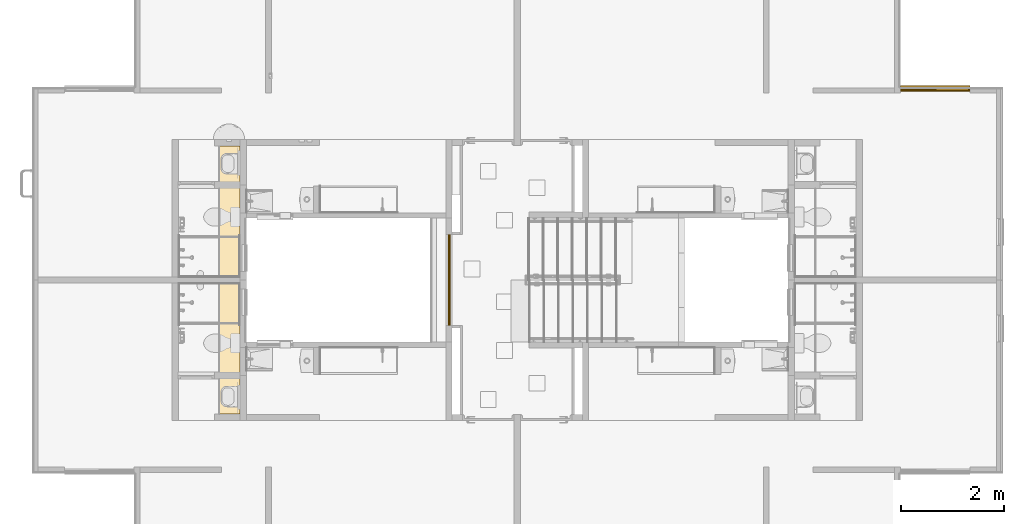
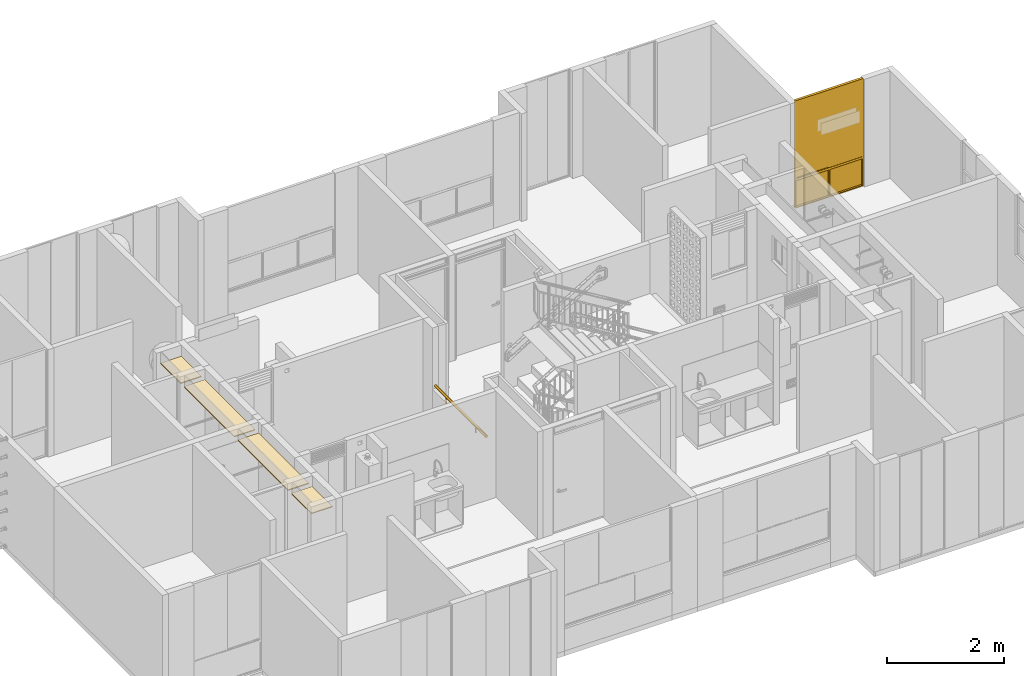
# One storey, part 38 of 51: 2 coverings, 1 railing, 1 window.
"""IFC4 building model written with IfcOpenShell, lengths in metres."""

from ifc_helpers import new_model, entity, si_unit, converted_unit, derived_unit, direction, frame, origin, place, context, subcontext, project, spatial, arc, indexed_curve, outline, extrude, polygons, source, transform, mapped, material, constituent, constituent_set, type_object, type_shapes, element, save


model = new_model("IFC4")

# Units and contexts
model_context = context("Model", 3, precision=1e-05, world=origin(), true_north=direction((6.123031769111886e-17, 1.0)))
body_context = subcontext(model_context, "Body", "Model", "MODEL_VIEW")
ifc_project = project(units=[si_unit("LENGTHUNIT", "METRE"), si_unit("AREAUNIT", "SQUARE_METRE"), si_unit("VOLUMEUNIT", "CUBIC_METRE"), converted_unit("PLANEANGLEUNIT", "DEGREE", entity("IfcRatioMeasure", 0.017453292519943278), si_unit("PLANEANGLEUNIT", "RADIAN"), dimensions=[0, 0, 0, 0, 0, 0, 0]), si_unit("MASSUNIT", "GRAM", prefix="KILO"), derived_unit("MASSDENSITYUNIT", [(si_unit("MASSUNIT", "GRAM", prefix="KILO"), 1), (si_unit("LENGTHUNIT", "METRE"), -3)]), derived_unit("IONCONCENTRATIONUNIT", [(si_unit("MASSUNIT", "GRAM", prefix="KILO"), 1), (si_unit("LENGTHUNIT", "METRE"), -3)]), derived_unit("MOMENTOFINERTIAUNIT", [(si_unit("LENGTHUNIT", "METRE"), 4)]), si_unit("TIMEUNIT", "SECOND"), si_unit("FREQUENCYUNIT", "HERTZ"), si_unit("THERMODYNAMICTEMPERATUREUNIT", "DEGREE_CELSIUS"), derived_unit("THERMALTRANSMITTANCEUNIT", [(si_unit("MASSUNIT", "GRAM", prefix="KILO"), 1), (si_unit("THERMODYNAMICTEMPERATUREUNIT", "KELVIN"), -1), (si_unit("TIMEUNIT", "SECOND"), -3)]), derived_unit("THERMALCONDUCTANCEUNIT", [(si_unit("MASSUNIT", "GRAM", prefix="KILO"), 1), (si_unit("THERMODYNAMICTEMPERATUREUNIT", "KELVIN"), -1), (si_unit("TIMEUNIT", "SECOND"), -3), (si_unit("LENGTHUNIT", "METRE"), 1)]), derived_unit("VOLUMETRICFLOWRATEUNIT", [(si_unit("LENGTHUNIT", "METRE"), 3), (si_unit("TIMEUNIT", "SECOND"), -1)]), derived_unit("MASSFLOWRATEUNIT", [(si_unit("MASSUNIT", "GRAM", prefix="KILO"), 1), (si_unit("TIMEUNIT", "SECOND"), -1)]), derived_unit("ROTATIONALFREQUENCYUNIT", [(si_unit("TIMEUNIT", "SECOND"), -1)]), si_unit("ELECTRICCURRENTUNIT", "AMPERE"), si_unit("ELECTRICVOLTAGEUNIT", "VOLT"), si_unit("POWERUNIT", "WATT"), si_unit("FORCEUNIT", "NEWTON", prefix="KILO"), si_unit("ILLUMINANCEUNIT", "LUX"), si_unit("LUMINOUSFLUXUNIT", "LUMEN"), si_unit("LUMINOUSINTENSITYUNIT", "CANDELA"), derived_unit("USERDEFINED", [(si_unit("MASSUNIT", "GRAM", prefix="KILO"), -1), (si_unit("LENGTHUNIT", "METRE"), -2), (si_unit("TIMEUNIT", "SECOND"), 3), (si_unit("LUMINOUSFLUXUNIT", "LUMEN"), 1)]), derived_unit("USERDEFINED", [(si_unit("MASSUNIT", "GRAM", prefix="KILO"), 1), (si_unit("TIMEUNIT", "SECOND"), -3), (si_unit("LENGTHUNIT", "METRE"), 3), (si_unit("ELECTRICCURRENTUNIT", "AMPERE"), -2)]), derived_unit("SOUNDPOWERUNIT", [(si_unit("MASSUNIT", "GRAM", prefix="KILO"), 1), (si_unit("TIMEUNIT", "SECOND"), -3), (si_unit("LENGTHUNIT", "METRE"), 2)]), derived_unit("SOUNDPRESSUREUNIT", [(si_unit("MASSUNIT", "GRAM", prefix="KILO"), 1), (si_unit("LENGTHUNIT", "METRE"), -1), (si_unit("TIMEUNIT", "SECOND"), -2)]), derived_unit("LINEARVELOCITYUNIT", [(si_unit("LENGTHUNIT", "METRE"), 1), (si_unit("TIMEUNIT", "SECOND"), -1)]), si_unit("PRESSUREUNIT", "PASCAL"), derived_unit("USERDEFINED", [(si_unit("MASSUNIT", "GRAM", prefix="KILO"), 1), (si_unit("LENGTHUNIT", "METRE"), -2), (si_unit("TIMEUNIT", "SECOND"), -2)]), derived_unit("LINEARFORCEUNIT", [(si_unit("MASSUNIT", "GRAM", prefix="KILO"), 1), (si_unit("TIMEUNIT", "SECOND"), -2)]), derived_unit("PLANARFORCEUNIT", [(si_unit("MASSUNIT", "GRAM", prefix="KILO"), 1), (si_unit("LENGTHUNIT", "METRE"), -1), (si_unit("TIMEUNIT", "SECOND"), -2)]), derived_unit("SPECIFICHEATCAPACITYUNIT", [(si_unit("THERMODYNAMICTEMPERATUREUNIT", "KELVIN"), -1), (si_unit("LENGTHUNIT", "METRE"), 2), (si_unit("TIMEUNIT", "SECOND"), -2)]), derived_unit("HEATINGVALUEUNIT", [(si_unit("LENGTHUNIT", "METRE"), 2), (si_unit("TIMEUNIT", "SECOND"), -2)]), derived_unit("VAPORPERMEABILITYUNIT", [(si_unit("LENGTHUNIT", "METRE"), -1), (si_unit("TIMEUNIT", "SECOND"), 1)]), derived_unit("DYNAMICVISCOSITYUNIT", [(si_unit("MASSUNIT", "GRAM", prefix="KILO"), 1), (si_unit("TIMEUNIT", "SECOND"), -1), (si_unit("LENGTHUNIT", "METRE"), -1)]), derived_unit("THERMALEXPANSIONCOEFFICIENTUNIT", [(si_unit("THERMODYNAMICTEMPERATUREUNIT", "KELVIN"), -1)]), derived_unit("MODULUSOFELASTICITYUNIT", [(si_unit("MASSUNIT", "GRAM", prefix="KILO"), 1), (si_unit("LENGTHUNIT", "METRE"), -1), (si_unit("TIMEUNIT", "SECOND"), -2)]), derived_unit("ISOTHERMALMOISTURECAPACITYUNIT", [(si_unit("LENGTHUNIT", "METRE"), 3), (si_unit("MASSUNIT", "GRAM", prefix="KILO"), -1)]), derived_unit("MOISTUREDIFFUSIVITYUNIT", [(si_unit("TIMEUNIT", "SECOND"), -1), (si_unit("LENGTHUNIT", "METRE"), 2)])], contexts=[model_context])

# Site, building, storey
site_placement = place(None, origin())
site = spatial("IfcSite", under=ifc_project, at=site_placement, Name="Default", CompositionType="ELEMENT")
building_placement = place(site_placement, origin())
building = spatial("IfcBuilding", under=site, at=building_placement, CompositionType="ELEMENT")
storey_placement = place(building_placement, frame((0.0, 0.0, 2.350000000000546)))
storey = spatial("IfcBuildingStorey", under=building, at=storey_placement, Name="Nivel 2", CompositionType="ELEMENT", Elevation=2.350000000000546)

# Window
ifc_material_1 = material(Name="Vidrio", Category="Materials")
ifc_constituent_1 = constituent(ifc_material_1, Name="Vidrio", Category="Materials")
ifc_material_2 = material(Name="Aluminio", Category="Materials")
ifc_constituent_2 = constituent(ifc_material_2, Name="Aluminio", Category="Materials")
ifc_material_3 = material(Name="<Unnamed>")
ifc_constituent_3 = constituent(ifc_material_3, Name="<Unnamed>")
ifc_constituent_set_1 = constituent_set(constituents=[ifc_constituent_1, ifc_constituent_2, ifc_constituent_3])
ifc_constituent_4 = constituent(ifc_material_1, Name="Vidrio", Category="Materials")
ifc_constituent_5 = constituent(ifc_material_2, Name="Aluminio", Category="Materials")
ifc_constituent_6 = constituent(ifc_material_3, Name="<Unnamed>")
ifc_constituent_set_2 = constituent_set(constituents=[ifc_constituent_4, ifc_constituent_5, ifc_constituent_6])
window_type = type_object("IfcWindowType", Name="B2020 - Ventana corrediza - Aluminio + Vidrio:B2020 - 1.35m x 2.25m - Ventana corrediza 2C - Aluminio + Vidrio", PartitioningType="NOTDEFINED", PredefinedType="WINDOW", material=ifc_constituent_set_2)
shared_shape = source(origin(), body_context, "Body", "Tessellation", [
    polygons([(1.3299999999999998, 0.044249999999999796, 2.2300000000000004), (0.6749999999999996, 0.04424999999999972, 2.2300000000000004), (0.6749999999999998, 0.04424999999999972, 0.6174999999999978), (1.3299999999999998, 0.044249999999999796, 0.6174999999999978), (1.3299999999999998, 0.04824999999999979, 2.2300000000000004), (0.6749999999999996, 0.04824999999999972, 2.2300000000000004), (0.6749999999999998, 0.04824999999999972, 0.6174999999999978), (1.3299999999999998, 0.04824999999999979, 0.6174999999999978)], [[[1, 2, 3, 4]], [[2, 1, 5, 6]], [[3, 2, 6, 7]], [[1, 4, 8, 5]], [[5, 8, 7, 6]], [[4, 3, 7, 8]]], closed=True),
    polygons([(0.020000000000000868, 0.04424999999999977, 2.2300000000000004), (0.020000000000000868, 0.04424999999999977, 0.6174999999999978), (0.6800000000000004, 0.044249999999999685, 0.6174999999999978), (0.6800000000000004, 0.044249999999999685, 2.2300000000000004), (0.020000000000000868, 0.048249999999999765, 2.2300000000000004), (0.020000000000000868, 0.048249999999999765, 0.6174999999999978), (0.6800000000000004, 0.04824999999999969, 0.6174999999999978), (0.6800000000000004, 0.04824999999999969, 2.2300000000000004)], [[[1, 2, 3, 4]], [[2, 1, 5, 6]], [[4, 3, 7, 8]], [[1, 4, 8, 5]], [[5, 8, 7, 6]], [[3, 2, 6, 7]]], closed=True),
    polygons([(0.6800000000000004, 0.048249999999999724, 0.6174999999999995), (0.6800000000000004, 0.044249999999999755, 0.6174999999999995), (0.6800000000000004, 0.044249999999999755, 2.230000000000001), (0.6800000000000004, 0.048249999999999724, 2.230000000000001), (0.665, 0.044249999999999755, 2.2150000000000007), (0.035000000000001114, 0.04424999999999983, 2.2150000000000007), (0.035000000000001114, 0.04424999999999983, 0.6324999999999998), (0.665, 0.044249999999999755, 0.6324999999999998), (0.020000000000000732, 0.04424999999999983, 0.6174999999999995), (0.020000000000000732, 0.04424999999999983, 2.230000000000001), (0.020000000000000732, 0.0482499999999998, 2.230000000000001), (0.020000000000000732, 0.0482499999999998, 0.6174999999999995), (0.665, 0.048249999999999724, 0.6324999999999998), (0.035000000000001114, 0.04824999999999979, 0.6324999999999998), (0.035000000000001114, 0.04824999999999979, 2.2150000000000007), (0.665, 0.048249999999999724, 2.2150000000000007), (0.665, 0.05299999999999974, 0.6324999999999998), (0.665, 0.05299999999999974, 2.2150000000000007), (0.035000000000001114, 0.05299999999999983, 2.2150000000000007), (0.035000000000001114, 0.05299999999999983, 0.6324999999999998), (0.6850000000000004, 0.05299999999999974, 0.6124999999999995), (0.015000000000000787, 0.05299999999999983, 0.6124999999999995), (0.015000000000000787, 0.05299999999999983, 2.2350000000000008), (0.6850000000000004, 0.05299999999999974, 2.2350000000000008), (0.6850000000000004, 0.03949999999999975, 0.6124999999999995), (0.6850000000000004, 0.03949999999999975, 2.2350000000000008), (0.015000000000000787, 0.03949999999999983, 2.2350000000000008), (0.015000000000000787, 0.03949999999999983, 0.6124999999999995), (0.665, 0.03949999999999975, 0.6324999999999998), (0.035000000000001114, 0.03949999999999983, 0.6324999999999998), (0.035000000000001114, 0.03949999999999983, 2.2150000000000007), (0.665, 0.03949999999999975, 2.2150000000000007)], [[[1, 2, 3, 4]], [[2, 9, 10, 3], [5, 6, 7, 8]], [[4, 3, 10, 11]], [[4, 11, 12, 1], [13, 14, 15, 16]], [[17, 13, 16, 18]], [[18, 16, 15, 19]], [[21, 22, 23, 24], [18, 19, 20, 17]], [[25, 21, 24, 26]], [[26, 24, 23, 27]], [[26, 27, 28, 25], [29, 30, 31, 32]], [[8, 29, 32, 5]], [[5, 32, 31, 6]], [[11, 10, 9, 12]], [[19, 15, 14, 20]], [[27, 23, 22, 28]], [[6, 31, 30, 7]], [[12, 9, 2, 1]], [[20, 14, 13, 17]], [[28, 22, 21, 25]], [[7, 30, 29, 8]]], closed=True),
    polygons([(0.6699999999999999, 0.06674999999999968, 2.229999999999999), (0.6699999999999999, 0.06674999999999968, 0.6174999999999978), (1.3299999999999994, 0.06674999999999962, 0.6174999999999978), (1.3299999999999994, 0.06674999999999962, 2.229999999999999), (0.6699999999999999, 0.07074999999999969, 2.229999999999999), (0.6699999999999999, 0.07074999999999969, 0.6174999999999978), (1.3299999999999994, 0.0707499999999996, 0.6174999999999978), (1.3299999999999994, 0.0707499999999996, 2.229999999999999)], [[[1, 2, 3, 4]], [[2, 1, 5, 6]], [[4, 3, 7, 8]], [[1, 4, 8, 5]], [[5, 8, 7, 6]], [[3, 2, 6, 7]]], closed=True),
    polygons([(1.3299999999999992, 0.07074999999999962, 0.6175), (1.3299999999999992, 0.06674999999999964, 0.6175), (1.3299999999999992, 0.06674999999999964, 2.2299999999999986), (1.3299999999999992, 0.07074999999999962, 2.2299999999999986), (1.3149999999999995, 0.06674999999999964, 2.214999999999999), (0.6850000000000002, 0.06674999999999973, 2.214999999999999), (0.6850000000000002, 0.06674999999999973, 0.6324999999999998), (1.3149999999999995, 0.06674999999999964, 0.6324999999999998), (0.6700000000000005, 0.06674999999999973, 0.6175), (0.6700000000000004, 0.06674999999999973, 2.2299999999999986), (0.6700000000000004, 0.0707499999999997, 2.2299999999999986), (0.6700000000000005, 0.0707499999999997, 0.6175), (1.3149999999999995, 0.07074999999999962, 0.6324999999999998), (0.6850000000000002, 0.0707499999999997, 0.6324999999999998), (0.6850000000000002, 0.0707499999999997, 2.214999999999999), (1.3149999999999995, 0.07074999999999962, 2.214999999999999), (1.3149999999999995, 0.07549999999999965, 0.6324999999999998), (1.3149999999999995, 0.07549999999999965, 2.214999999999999), (0.6850000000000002, 0.07549999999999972, 2.214999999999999), (0.6850000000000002, 0.07549999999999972, 0.6324999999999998), (1.3349999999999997, 0.07549999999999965, 0.6124999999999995), (0.665, 0.07549999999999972, 0.6124999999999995), (0.6649999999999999, 0.07549999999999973, 2.2349999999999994), (1.3349999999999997, 0.07549999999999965, 2.2349999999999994), (1.3349999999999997, 0.06199999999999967, 0.6124999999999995), (1.3349999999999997, 0.06199999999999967, 2.2349999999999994), (0.6649999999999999, 0.06199999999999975, 2.2349999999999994), (0.665, 0.06199999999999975, 0.6124999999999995), (1.3149999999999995, 0.06199999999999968, 0.6324999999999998), (0.6850000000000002, 0.06199999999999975, 0.6324999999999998), (0.6850000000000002, 0.06199999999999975, 2.214999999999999), (1.3149999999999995, 0.06199999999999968, 2.214999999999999)], [[[1, 2, 3, 4]], [[2, 9, 10, 3], [5, 6, 7, 8]], [[4, 3, 10, 11]], [[4, 11, 12, 1], [13, 14, 15, 16]], [[17, 13, 16, 18]], [[18, 16, 15, 19]], [[21, 22, 23, 24], [18, 19, 20, 17]], [[25, 21, 24, 26]], [[26, 24, 23, 27]], [[26, 27, 28, 25], [29, 30, 31, 32]], [[8, 29, 32, 5]], [[5, 32, 31, 6]], [[11, 10, 9, 12]], [[19, 15, 14, 20]], [[27, 23, 22, 28]], [[6, 31, 30, 7]], [[12, 9, 2, 1]], [[20, 14, 13, 17]], [[28, 22, 21, 25]], [[7, 30, 29, 8]]], closed=True),
    polygons([(1.3249999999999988, 0.037499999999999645, 2.224999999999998), (1.3249999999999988, 0.03249999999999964, 2.2249999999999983), (0.025000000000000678, 0.03249999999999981, 2.2249999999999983), (0.025000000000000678, 0.037499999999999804, 2.2249999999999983), (0.025000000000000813, 0.03249999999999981, 0.6200000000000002), (0.02500000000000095, 0.037499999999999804, 0.6200000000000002), (1.3249999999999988, 0.03249999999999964, 0.6200000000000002), (6.767919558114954e-16, 0.03249999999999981, 0.595), (1.349999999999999, 0.03249999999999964, 0.595), (1.349999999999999, 0.03249999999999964, 2.2499999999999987), (4.060751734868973e-16, 0.03249999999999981, 2.2499999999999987), (0.005000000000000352, 0.037499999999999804, 2.2449999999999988), (1.344999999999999, 0.037499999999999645, 2.2449999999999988), (1.344999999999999, 0.037499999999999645, 0.5999999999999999), (0.0050000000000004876, 0.037499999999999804, 0.5999999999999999), (1.3249999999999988, 0.037499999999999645, 0.6200000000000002), (1.344999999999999, 0.054999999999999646, 2.2449999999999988), (0.005000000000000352, 0.05499999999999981, 2.2449999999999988), (0.005000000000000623, 0.05499999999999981, 0.5999999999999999), (0.025000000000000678, 0.054999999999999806, 2.2249999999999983), (1.3249999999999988, 0.05499999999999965, 2.224999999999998), (1.3249999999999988, 0.05499999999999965, 0.6200000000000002), (0.025000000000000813, 0.054999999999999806, 0.6200000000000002), (1.344999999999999, 0.054999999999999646, 0.5999999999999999), (1.3249999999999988, 0.05999999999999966, 2.224999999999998), (0.025000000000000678, 0.05999999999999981, 2.2249999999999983), (0.02500000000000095, 0.05999999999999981, 0.6200000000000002), (0.005000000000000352, 0.05999999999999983, 2.2449999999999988), (1.344999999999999, 0.05999999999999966, 2.2449999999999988), (1.344999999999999, 0.05999999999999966, 0.5999999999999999), (0.0050000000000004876, 0.05999999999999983, 0.5999999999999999), (1.3249999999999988, 0.05999999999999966, 0.6200000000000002), (1.344999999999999, 0.07749999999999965, 2.2449999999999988), (0.005000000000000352, 0.07749999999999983, 2.2449999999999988), (0.005000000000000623, 0.07749999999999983, 0.5999999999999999), (0.025000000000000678, 0.07749999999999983, 2.2249999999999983), (1.3249999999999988, 0.07749999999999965, 2.224999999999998), (1.3249999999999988, 0.07749999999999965, 0.6200000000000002), (0.025000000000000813, 0.07749999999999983, 0.6200000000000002), (1.344999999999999, 0.07749999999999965, 0.5999999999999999), (1.3249999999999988, 0.08249999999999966, 2.224999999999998), (0.025000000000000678, 0.08249999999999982, 2.2249999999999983), (0.02500000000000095, 0.08249999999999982, 0.6200000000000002), (4.060751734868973e-16, 0.08249999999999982, 2.2499999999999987), (1.349999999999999, 0.08249999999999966, 2.2499999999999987), (1.349999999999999, 0.08249999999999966, 0.595), (5.414335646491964e-16, 0.08249999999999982, 0.595), (1.3249999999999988, 0.08249999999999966, 0.6200000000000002)], [[[1, 2, 3, 4]], [[4, 3, 5, 6]], [[8, 9, 10, 11], [3, 2, 7, 5]], [[12, 13, 14, 15], [6, 16, 1, 4]], [[17, 13, 12, 18]], [[18, 12, 15, 19]], [[19, 24, 17, 18], [20, 21, 22, 23]], [[25, 21, 20, 26]], [[26, 20, 23, 27]], [[28, 29, 30, 31], [27, 32, 25, 26]], [[33, 29, 28, 34]], [[34, 28, 31, 35]], [[35, 40, 33, 34], [36, 37, 38, 39]], [[41, 37, 36, 42]], [[42, 36, 39, 43]], [[44, 45, 46, 47], [43, 48, 41, 42]], [[10, 45, 44, 11]], [[11, 44, 47, 8]], [[16, 7, 2, 1]], [[24, 14, 13, 17]], [[32, 22, 21, 25]], [[40, 30, 29, 33]], [[48, 38, 37, 41]], [[9, 46, 45, 10]], [[6, 5, 7, 16]], [[19, 15, 14, 24]], [[27, 23, 22, 32]], [[35, 31, 30, 40]], [[43, 39, 38, 48]], [[8, 47, 46, 9]]], closed=True),
    polygons([(0.01999999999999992, 0.08250000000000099, 0.5749999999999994), (0.020000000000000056, 0.03249999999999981, 0.5749999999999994), (0.020000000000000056, 0.0324999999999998, 0.020000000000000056), (0.01999999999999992, 0.08250000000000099, 0.020000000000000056), (0.6649999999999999, 0.03250000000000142, 0.01999999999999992), (0.6649999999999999, 0.08250000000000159, 0.019999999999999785), (2.707167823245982e-16, 0.03250000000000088, 0.5949999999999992), (2.707167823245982e-16, 0.08249999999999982, 0.5949999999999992), (2.707167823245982e-16, 0.08249999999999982, 2.707167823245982e-16), (2.707167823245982e-16, 0.03250000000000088, 2.707167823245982e-16), (1.3499999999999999, 0.08249999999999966, 2.707167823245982e-16), (1.3499999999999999, 0.03250000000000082, 2.707167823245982e-16), (1.3299999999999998, 0.08250000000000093, 0.020000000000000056), (1.33, 0.03249999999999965, 0.020000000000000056), (1.33, 0.03249999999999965, 0.5749999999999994), (1.3299999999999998, 0.08250000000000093, 0.5749999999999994), (1.3499999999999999, 0.08249999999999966, 0.5949999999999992), (1.3499999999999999, 0.03250000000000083, 0.5949999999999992), (0.6849999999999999, 0.03250000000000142, 0.5749999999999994), (0.6849999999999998, 0.08250000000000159, 0.5749999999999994), (0.6849999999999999, 0.08250000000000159, 0.019999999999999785), (0.6849999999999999, 0.03250000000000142, 0.01999999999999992), (0.6649999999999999, 0.03250000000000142, 0.5749999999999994), (0.6649999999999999, 0.08250000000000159, 0.5749999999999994)], [[[1, 2, 3, 4]], [[4, 3, 5, 6]], [[7, 8, 9, 10]], [[10, 9, 11, 12]], [[13, 14, 15, 16]], [[12, 11, 17, 18]], [[16, 15, 19, 20]], [[8, 7, 18, 17]], [[21, 20, 19, 22]], [[7, 10, 12, 18], [22, 19, 15, 14], [23, 5, 3, 2]], [[24, 6, 5, 23]], [[9, 8, 17, 11], [6, 24, 1, 4], [20, 21, 13, 16]], [[2, 1, 24, 23]], [[14, 13, 21, 22]]], closed=True),
    polygons([(0.6850000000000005, 0.07213901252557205, 0.019999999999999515), (1.3300000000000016, 0.07213901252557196, 0.019999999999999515), (1.3300000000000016, 0.06813901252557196, 0.019999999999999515), (0.6850000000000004, 0.06813901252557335, 0.019999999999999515), (0.6850000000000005, 0.07213901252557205, 0.5849999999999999), (1.3300000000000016, 0.07213901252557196, 0.5849999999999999), (1.3300000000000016, 0.06813901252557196, 0.5849999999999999), (0.6850000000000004, 0.06813901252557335, 0.5849999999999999)], [[[1, 2, 3, 4]], [[5, 6, 2, 1]], [[6, 7, 3, 2]], [[7, 8, 4, 3]], [[8, 5, 1, 4]], [[5, 8, 7, 6]]], closed=True),
    polygons([(0.6649999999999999, 0.07213901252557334, 0.019999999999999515), (0.6649999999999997, 0.06813901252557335, 0.019999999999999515), (0.01999999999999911, 0.06813901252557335, 0.019999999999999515), (0.019999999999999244, 0.07213901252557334, 0.019999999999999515), (0.6649999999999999, 0.07213901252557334, 0.5849999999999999), (0.6649999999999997, 0.06813901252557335, 0.5849999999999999), (0.01999999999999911, 0.06813901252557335, 0.5849999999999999), (0.019999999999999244, 0.07213901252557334, 0.5849999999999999)], [[[1, 2, 3, 4]], [[5, 6, 2, 1]], [[6, 7, 3, 2]], [[7, 8, 4, 3]], [[8, 5, 1, 4]], [[5, 8, 7, 6]]], closed=True),
    polygons([(-9.475087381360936e-16, 0.11499999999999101, -4.060751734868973e-16), (-9.475087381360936e-16, 0.08249999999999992, -4.060751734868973e-16), (-9.475087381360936e-16, 0.08249999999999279, 0.0049999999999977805), (-9.475087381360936e-16, 0.11633974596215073, 0.0049999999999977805), (-8.121503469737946e-16, 0.14348076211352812, -0.010669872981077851), (-8.121503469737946e-16, 0.14098076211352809, -0.015000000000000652), (1.3499999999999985, 0.11499999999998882, -4.060751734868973e-16), (1.3499999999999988, 0.1409807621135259, -0.015000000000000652), (1.3499999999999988, 0.14348076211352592, -0.010669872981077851), (1.3499999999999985, 0.11633974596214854, 0.0049999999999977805), (1.3499999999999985, 0.08249999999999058, 0.0049999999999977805), (1.3499999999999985, 0.08249999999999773, -4.060751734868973e-16)], [[[1, 2, 3, 4, 5, 6]], [[7, 8, 9, 10, 11, 12]], [[2, 1, 7, 12]], [[3, 2, 12, 11]], [[4, 3, 11, 10]], [[5, 4, 10, 9]], [[6, 5, 9, 8]], [[1, 6, 8, 7]]], closed=True),
])
type_shapes(window_type, [shared_shape])
window_placement = place(storey_placement, frame((16.7275000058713, -2.8100000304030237, 0.0)))
element("IfcWindow", 1, at=window_placement, inside=storey, type_object=window_type, material=ifc_constituent_set_1, Name="B2020 - Ventana corrediza - Aluminio + Vidrio:B2020 - 1.35m x 2.25m - Ventana corrediza 2C - Aluminio + Vidrio", ObjectType="B2020 - Ventana corrediza - Aluminio + Vidrio:B2020 - 1.35m x 2.25m - Ventana corrediza 2C - Aluminio + Vidrio", OverallHeight=2.265, OverallWidth=1.3500000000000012, PartitioningType="NOTDEFINED", PredefinedType="WINDOW", context=body_context, shape_type="MappedRepresentation", body=[
    mapped(shared_shape, transform((0.0, 0.0, 0.0), scale=1.0)),
])

# Space
space_1_placement = place(storey_placement, origin())
space_1 = spatial("IfcSpace", under=storey, at=space_1_placement, Name="404", CompositionType="ELEMENT", PredefinedType="SPACE")

# Covering
ifc_material_4 = material(Name="Plasterboard", Category="Materials")
covering_type = type_object("IfcCoveringType", Name="Compound Ceiling:C1070 - 0.02m - Plafón - Drywall", PredefinedType="CEILING")
covering_1_placement = place(space_1_placement, origin())
element("IfcCovering", 2, at=covering_1_placement, inside=space_1, type_object=covering_type, material=ifc_material_4, Name="Compound Ceiling:C1070 - 0.02m - Plafón - Drywall", ObjectType="Compound Ceiling:C1070 - 0.02m - Plafón - Drywall", PredefinedType="CEILING", context=body_context, shape_type="SweptSolid", body=[
    extrude(outline(indexed_curve([(-0.862499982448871, -0.20500000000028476), (0.862499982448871, -0.20500000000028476), (0.862499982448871, 0.20500000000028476), (-0.862499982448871, 0.20500000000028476), (-0.862499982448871, -0.20500000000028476)], self_intersect=False)), frame((3.7574999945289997, -5.502500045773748, 2.0), z_axis=(0.0, 0.0, 1.0), x_axis=(0.0, 1.0, 0.0)), (0.0, 0.0, 1.0), 0.019999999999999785),
    extrude(outline(indexed_curve([(-0.34500000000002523, -0.2050000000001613), (0.3450000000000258, -0.2050000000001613), (0.34500000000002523, 0.2050000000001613), (-0.3450000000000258, 0.2050000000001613), (-0.34500000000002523, -0.2050000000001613)], self_intersect=False)), frame((3.7574999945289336, -4.18000006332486, 2.0), z_axis=(0.0, 0.0, 1.0), x_axis=(0.0, 1.0, 0.0)), (0.0, 0.0, 1.0), 0.019999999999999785),
])

# Space
space_2_placement = place(storey_placement, origin())
space_2 = spatial("IfcSpace", under=storey, at=space_2_placement, Name="411", CompositionType="ELEMENT", PredefinedType="SPACE")

# Covering
covering_2_placement = place(space_2_placement, origin())
element("IfcCovering", 3, at=covering_2_placement, inside=space_2, type_object=covering_type, material=ifc_material_4, Name="Compound Ceiling:C1070 - 0.02m - Plafón - Drywall", ObjectType="Compound Ceiling:C1070 - 0.02m - Plafón - Drywall", PredefinedType="CEILING", context=body_context, shape_type="SweptSolid", body=[
    extrude(outline(indexed_curve([(-0.20500000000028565, -0.86249998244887), (0.20500000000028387, -0.86249998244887), (0.20500000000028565, 0.8624999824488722), (-0.20500000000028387, 0.8624999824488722), (-0.20500000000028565, -0.86249998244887)], self_intersect=False)), frame((3.757499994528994, -7.347500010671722, 2.0), z_axis=(0.0, 0.0, 1.0), x_axis=(-1.0, 0.0, 0.0)), (0.0, 0.0, 1.0), 0.019999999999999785),
    extrude(outline(indexed_curve([(-0.20500000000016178, -0.34500000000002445), (0.2050000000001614, -0.34500000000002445), (0.20500000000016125, 0.3450000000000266), (-0.2050000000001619, 0.3450000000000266), (-0.20500000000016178, -0.34500000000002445)], self_intersect=False)), frame((3.757499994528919, -8.66999999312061, 2.0), z_axis=(0.0, 0.0, 1.0), x_axis=(-1.0, 0.0, 0.0)), (0.0, 0.0, 1.0), 0.019999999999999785),
])

# Railing
ifc_constituent_7 = constituent(ifc_material_3, Name="<Unnamed>")
ifc_constituent_8 = constituent(ifc_material_2, Name="Aluminio", Category="Materials")
ifc_constituent_set_3 = constituent_set(constituents=[ifc_constituent_7, ifc_constituent_8])
railing_placement = place(storey_placement, origin())
element("IfcRailing", 4, at=railing_placement, inside=storey, material=ifc_constituent_set_3, Name="Railing:C1090 - Baranda - Aluminio", ObjectType="Railing:C1090 - Baranda - Aluminio", PredefinedType="NOTDEFINED", context=body_context, shape_type="SweptSolid", body=[
    extrude(outline(indexed_curve([(0.012500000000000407, 0.0), (0.0, 0.012500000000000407), (-0.012500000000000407, 0.0), (0.0, -0.012500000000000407)], segments=[arc(1, 2, 3), arc(3, 4, 1)], self_intersect=False)), frame((8.005000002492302, -6.925000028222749, 0.8750000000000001)), (0.0, 0.0, 1.0), 0.12499999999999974),
    extrude(outline(indexed_curve([(0.012500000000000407, 0.0), (0.0, 0.012500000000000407), (-0.012500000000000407, 0.0), (0.0, -0.012500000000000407)], segments=[arc(1, 2, 3), arc(3, 4, 1)], self_intersect=False)), frame((8.005000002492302, -5.925000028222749, 0.8750000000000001)), (0.0, 0.0, 1.0), 0.12499999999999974),
    extrude(outline(indexed_curve([(-0.02499999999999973, 0.0), (0.0, -0.025000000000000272), (0.02499999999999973, 0.0), (0.0, 0.025000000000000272)], segments=[arc(1, 2, 3), arc(3, 4, 1)], self_intersect=False)), frame((8.005000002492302, -7.305000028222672, 1.0250000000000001), z_axis=(0.0, 1.0, 0.0), x_axis=(-1.0, 0.0, 0.0)), (0.0, 0.0, 1.0), 1.7599999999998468),
])

save(model, "model.ifc")
